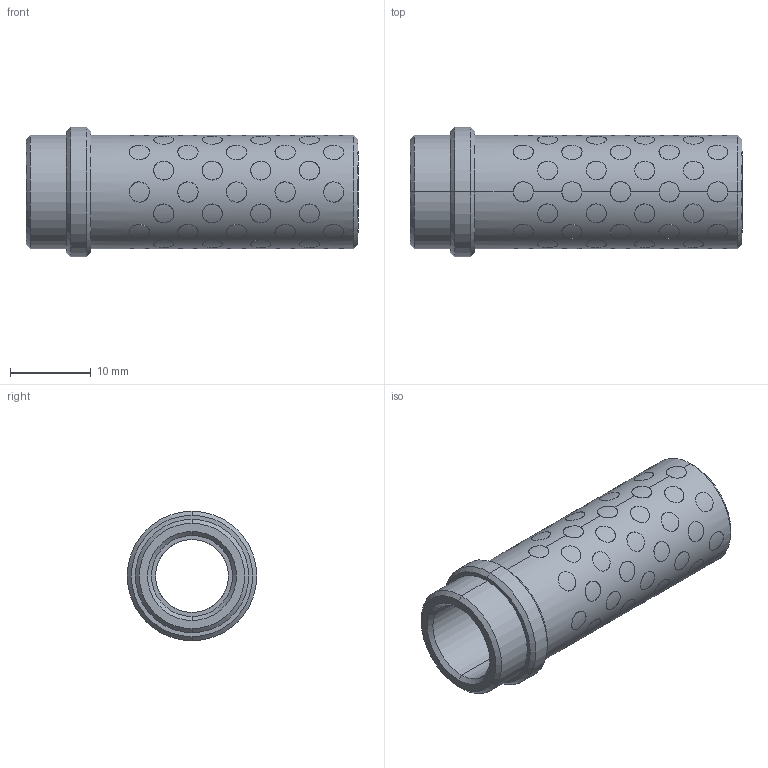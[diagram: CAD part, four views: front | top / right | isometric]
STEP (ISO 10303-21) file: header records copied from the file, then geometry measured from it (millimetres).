
FILE_DESCRIPTION((''),'2;1');
FILE_NAME('G31209036','2018-01-25T',('MANU'),(''),'PRO/ENGINEER BY PARAMETRIC TECHNOLOGY CORPORATION, 2012130','PRO/ENGINEER BY PARAMETRIC TECHNOLOGY CORPORATION, 2012130','');
FILE_SCHEMA(('CONFIG_CONTROL_DESIGN'));
Length unit declared in the file: millimetre
Products named in the file (1): G31209036
Bounding box: 41 x 16 x 16 mm (x, y, z)
Volume: 3638.9 mm3; surface area: 6063.7 mm2
Topology: 73 solids, 73 shells, 459 faces, 978 edges, 648 vertices
Faces by surface type: cylinder 442, cone 12, plane 5
Entity records: 20066 total; most frequent: CARTESIAN_POINT 11089, ORIENTED_EDGE 1956, DIRECTION 1312, EDGE_CURVE 978, VERTEX_POINT 648, B_SPLINE_CURVE_WITH_KNOTS 616, EDGE_LOOP 588, AXIS2_PLACEMENT_3D 491
